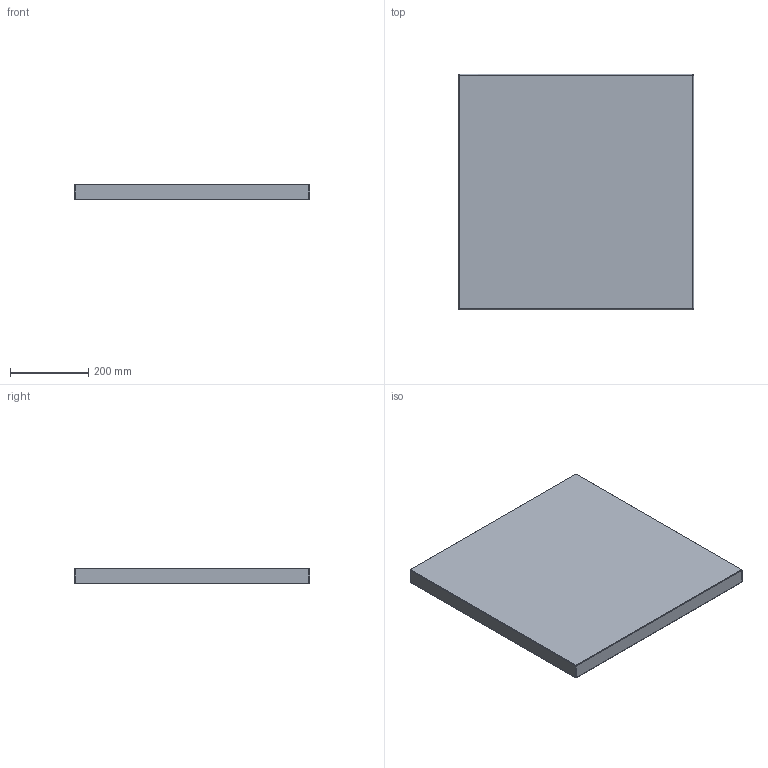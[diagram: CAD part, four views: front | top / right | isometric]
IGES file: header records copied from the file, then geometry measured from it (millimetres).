
Global section: file name: C:\Users\alberto.volpato\Desktop\Files\TAVOLO.igs; native system: Rhinoceros ( Mar  9 2011 ); preprocessor: Trout Lake IGES 012 Mar  9 2011; date: 160505.081827; units: millimetre
Bounding box: 600 x 600 x 40 mm (x, y, z)
Surface area: 874372.5 mm2 (no closed solid volume)
Topology: 0 solids, 0 shells, 31 faces, 128 edges, 120 vertices
Faces by surface type: bspline 31
